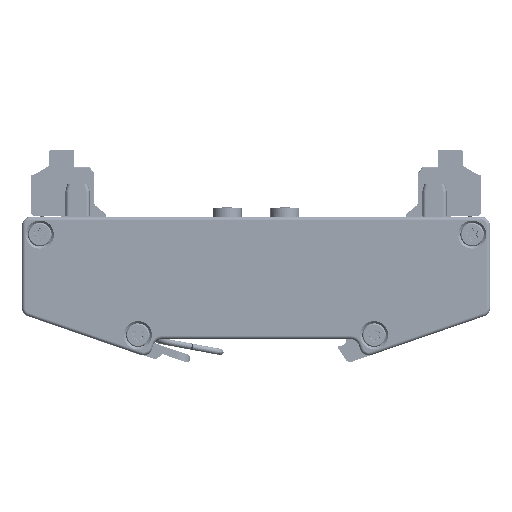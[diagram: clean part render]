
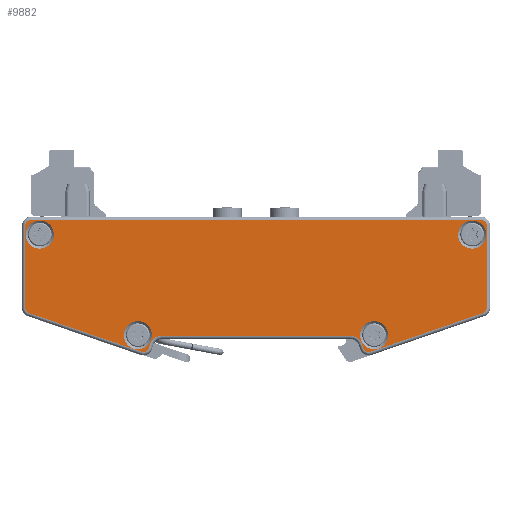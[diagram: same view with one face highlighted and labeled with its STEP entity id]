
A CAD part, left-side view. The second image highlights one B-rep face of the part: STEP entity #9882.
In plain terms, the highlighted planar face has unit normal (-1, 0, 0).
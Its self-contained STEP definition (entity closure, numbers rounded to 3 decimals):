
#9882 = ADVANCED_FACE('',(#9883,#9894,#10032,#10043,#10054),#10065,.F.);
#9883 = FACE_BOUND('',#9884,.F.);
#9884 = EDGE_LOOP('',(#9885));
#9885 = ORIENTED_EDGE('',*,*,#9886,.T.);
#9886 = EDGE_CURVE('',#9887,#9887,#9889,.T.);
#9887 = VERTEX_POINT('',#9888);
#9888 = CARTESIAN_POINT('',(-2.,45.35,-4.));
#9889 = CIRCLE('',#9890,3.15);
#9890 = AXIS2_PLACEMENT_3D('',#9891,#9892,#9893);
#9891 = CARTESIAN_POINT('',(-2.,48.5,-4.));
#9892 = DIRECTION('',(-1.,0.,0.));
#9893 = DIRECTION('',(0.,-1.,0.));
#9894 = FACE_BOUND('',#9895,.F.);
#9895 = EDGE_LOOP('',(#9896,#9906,#9915,#9923,#9932,#9940,#9949,#9957,
    #9966,#9974,#9983,#9991,#10000,#10008,#10017,#10025));
#9896 = ORIENTED_EDGE('',*,*,#9897,.T.);
#9897 = EDGE_CURVE('',#9898,#9900,#9902,.T.);
#9898 = VERTEX_POINT('',#9899);
#9899 = CARTESIAN_POINT('',(-2.,50.5,-0.75));
#9900 = VERTEX_POINT('',#9901);
#9901 = CARTESIAN_POINT('',(-2.,-50.5,-0.75));
#9902 = LINE('',#9903,#9904);
#9903 = CARTESIAN_POINT('',(-2.,50.5,-0.75));
#9904 = VECTOR('',#9905,1.);
#9905 = DIRECTION('',(0.,-1.,0.));
#9906 = ORIENTED_EDGE('',*,*,#9907,.T.);
#9907 = EDGE_CURVE('',#9900,#9908,#9910,.T.);
#9908 = VERTEX_POINT('',#9909);
#9909 = CARTESIAN_POINT('',(-2.,-51.75,-2.));
#9910 = CIRCLE('',#9911,1.25);
#9911 = AXIS2_PLACEMENT_3D('',#9912,#9913,#9914);
#9912 = CARTESIAN_POINT('',(-2.,-50.5,-2.));
#9913 = DIRECTION('',(1.,0.,0.));
#9914 = DIRECTION('',(0.,0.,1.));
#9915 = ORIENTED_EDGE('',*,*,#9916,.T.);
#9916 = EDGE_CURVE('',#9908,#9917,#9919,.T.);
#9917 = VERTEX_POINT('',#9918);
#9918 = CARTESIAN_POINT('',(-2.,-51.75,-20.42));
#9919 = LINE('',#9920,#9921);
#9920 = CARTESIAN_POINT('',(-2.,-51.75,-2.));
#9921 = VECTOR('',#9922,1.);
#9922 = DIRECTION('',(0.,0.,-1.));
#9923 = ORIENTED_EDGE('',*,*,#9924,.T.);
#9924 = EDGE_CURVE('',#9917,#9925,#9927,.T.);
#9925 = VERTEX_POINT('',#9926);
#9926 = CARTESIAN_POINT('',(-2.,-50.907,-21.602));
#9927 = CIRCLE('',#9928,1.25);
#9928 = AXIS2_PLACEMENT_3D('',#9929,#9930,#9931);
#9929 = CARTESIAN_POINT('',(-2.,-50.5,-20.42));
#9930 = DIRECTION('',(1.,0.,0.));
#9931 = DIRECTION('',(0.,-1.,0.));
#9932 = ORIENTED_EDGE('',*,*,#9933,.T.);
#9933 = EDGE_CURVE('',#9925,#9934,#9936,.T.);
#9934 = VERTEX_POINT('',#9935);
#9935 = CARTESIAN_POINT('',(-2.,-25.688,-30.285));
#9936 = LINE('',#9937,#9938);
#9937 = CARTESIAN_POINT('',(-2.,-50.907,-21.602));
#9938 = VECTOR('',#9939,1.);
#9939 = DIRECTION('',(0.,0.946,-0.326));
#9940 = ORIENTED_EDGE('',*,*,#9941,.T.);
#9941 = EDGE_CURVE('',#9934,#9942,#9944,.T.);
#9942 = VERTEX_POINT('',#9943);
#9943 = CARTESIAN_POINT('',(-2.,-24.099,-29.511));
#9944 = CIRCLE('',#9945,1.25);
#9945 = AXIS2_PLACEMENT_3D('',#9946,#9947,#9948);
#9946 = CARTESIAN_POINT('',(-2.,-25.281,-29.104));
#9947 = DIRECTION('',(1.,0.,0.));
#9948 = DIRECTION('',(0.,-0.326,-0.946
    ));
#9949 = ORIENTED_EDGE('',*,*,#9950,.T.);
#9950 = EDGE_CURVE('',#9942,#9951,#9953,.T.);
#9951 = VERTEX_POINT('',#9952);
#9952 = CARTESIAN_POINT('',(-2.,-23.77,-28.555));
#9953 = LINE('',#9954,#9955);
#9954 = CARTESIAN_POINT('',(-2.,-24.099,-29.511));
#9955 = VECTOR('',#9956,1.);
#9956 = DIRECTION('',(0.,0.326,0.946));
#9957 = ORIENTED_EDGE('',*,*,#9958,.T.);
#9958 = EDGE_CURVE('',#9951,#9959,#9961,.T.);
#9959 = VERTEX_POINT('',#9960);
#9960 = CARTESIAN_POINT('',(-2.,-21.17,-26.7));
#9961 = CIRCLE('',#9962,2.75);
#9962 = AXIS2_PLACEMENT_3D('',#9963,#9964,#9965);
#9963 = CARTESIAN_POINT('',(-2.,-21.17,-29.45));
#9964 = DIRECTION('',(-1.,0.,0.));
#9965 = DIRECTION('',(0.,-0.946,0.326)
  );
#9966 = ORIENTED_EDGE('',*,*,#9967,.T.);
#9967 = EDGE_CURVE('',#9959,#9968,#9970,.T.);
#9968 = VERTEX_POINT('',#9969);
#9969 = CARTESIAN_POINT('',(-2.,21.17,-26.7));
#9970 = LINE('',#9971,#9972);
#9971 = CARTESIAN_POINT('',(-2.,-21.17,-26.7));
#9972 = VECTOR('',#9973,1.);
#9973 = DIRECTION('',(0.,1.,0.));
#9974 = ORIENTED_EDGE('',*,*,#9975,.T.);
#9975 = EDGE_CURVE('',#9968,#9976,#9978,.T.);
#9976 = VERTEX_POINT('',#9977);
#9977 = CARTESIAN_POINT('',(-2.,23.77,-28.555));
#9978 = CIRCLE('',#9979,2.75);
#9979 = AXIS2_PLACEMENT_3D('',#9980,#9981,#9982);
#9980 = CARTESIAN_POINT('',(-2.,21.17,-29.45));
#9981 = DIRECTION('',(-1.,0.,0.));
#9982 = DIRECTION('',(0.,0.,1.));
#9983 = ORIENTED_EDGE('',*,*,#9984,.T.);
#9984 = EDGE_CURVE('',#9976,#9985,#9987,.T.);
#9985 = VERTEX_POINT('',#9986);
#9986 = CARTESIAN_POINT('',(-2.,24.099,-29.511));
#9987 = LINE('',#9988,#9989);
#9988 = CARTESIAN_POINT('',(-2.,23.77,-28.555));
#9989 = VECTOR('',#9990,1.);
#9990 = DIRECTION('',(0.,0.326,-0.946));
#9991 = ORIENTED_EDGE('',*,*,#9992,.T.);
#9992 = EDGE_CURVE('',#9985,#9993,#9995,.T.);
#9993 = VERTEX_POINT('',#9994);
#9994 = CARTESIAN_POINT('',(-2.,25.688,-30.285));
#9995 = CIRCLE('',#9996,1.25);
#9996 = AXIS2_PLACEMENT_3D('',#9997,#9998,#9999);
#9997 = CARTESIAN_POINT('',(-2.,25.281,-29.104));
#9998 = DIRECTION('',(1.,0.,0.));
#9999 = DIRECTION('',(0.,-0.946,-0.326
    ));
#10000 = ORIENTED_EDGE('',*,*,#10001,.T.);
#10001 = EDGE_CURVE('',#9993,#10002,#10004,.T.);
#10002 = VERTEX_POINT('',#10003);
#10003 = CARTESIAN_POINT('',(-2.,50.907,-21.602));
#10004 = LINE('',#10005,#10006);
#10005 = CARTESIAN_POINT('',(-2.,25.688,-30.285));
#10006 = VECTOR('',#10007,1.);
#10007 = DIRECTION('',(0.,0.946,0.326));
#10008 = ORIENTED_EDGE('',*,*,#10009,.T.);
#10009 = EDGE_CURVE('',#10002,#10010,#10012,.T.);
#10010 = VERTEX_POINT('',#10011);
#10011 = CARTESIAN_POINT('',(-2.,51.75,-20.42));
#10012 = CIRCLE('',#10013,1.25);
#10013 = AXIS2_PLACEMENT_3D('',#10014,#10015,#10016);
#10014 = CARTESIAN_POINT('',(-2.,50.5,-20.42));
#10015 = DIRECTION('',(1.,0.,0.));
#10016 = DIRECTION('',(0.,0.326,
    -0.946));
#10017 = ORIENTED_EDGE('',*,*,#10018,.T.);
#10018 = EDGE_CURVE('',#10010,#10019,#10021,.T.);
#10019 = VERTEX_POINT('',#10020);
#10020 = CARTESIAN_POINT('',(-2.,51.75,-2.));
#10021 = LINE('',#10022,#10023);
#10022 = CARTESIAN_POINT('',(-2.,51.75,-20.42));
#10023 = VECTOR('',#10024,1.);
#10024 = DIRECTION('',(0.,0.,1.));
#10025 = ORIENTED_EDGE('',*,*,#10026,.T.);
#10026 = EDGE_CURVE('',#10019,#9898,#10027,.T.);
#10027 = CIRCLE('',#10028,1.25);
#10028 = AXIS2_PLACEMENT_3D('',#10029,#10030,#10031);
#10029 = CARTESIAN_POINT('',(-2.,50.5,-2.));
#10030 = DIRECTION('',(1.,0.,0.));
#10031 = DIRECTION('',(0.,1.,0.));
#10032 = FACE_BOUND('',#10033,.F.);
#10033 = EDGE_LOOP('',(#10034));
#10034 = ORIENTED_EDGE('',*,*,#10035,.T.);
#10035 = EDGE_CURVE('',#10036,#10036,#10038,.T.);
#10036 = VERTEX_POINT('',#10037);
#10037 = CARTESIAN_POINT('',(-2.,23.35,-26.572));
#10038 = CIRCLE('',#10039,3.15);
#10039 = AXIS2_PLACEMENT_3D('',#10040,#10041,#10042);
#10040 = CARTESIAN_POINT('',(-2.,26.5,-26.572));
#10041 = DIRECTION('',(-1.,0.,0.));
#10042 = DIRECTION('',(0.,-1.,-0.));
#10043 = FACE_BOUND('',#10044,.F.);
#10044 = EDGE_LOOP('',(#10045));
#10045 = ORIENTED_EDGE('',*,*,#10046,.T.);
#10046 = EDGE_CURVE('',#10047,#10047,#10049,.T.);
#10047 = VERTEX_POINT('',#10048);
#10048 = CARTESIAN_POINT('',(-2.,-29.65,-26.572));
#10049 = CIRCLE('',#10050,3.15);
#10050 = AXIS2_PLACEMENT_3D('',#10051,#10052,#10053);
#10051 = CARTESIAN_POINT('',(-2.,-26.5,-26.572));
#10052 = DIRECTION('',(-1.,0.,0.));
#10053 = DIRECTION('',(0.,-1.,0.));
#10054 = FACE_BOUND('',#10055,.F.);
#10055 = EDGE_LOOP('',(#10056));
#10056 = ORIENTED_EDGE('',*,*,#10057,.T.);
#10057 = EDGE_CURVE('',#10058,#10058,#10060,.T.);
#10058 = VERTEX_POINT('',#10059);
#10059 = CARTESIAN_POINT('',(-2.,-51.65,-4.));
#10060 = CIRCLE('',#10061,3.15);
#10061 = AXIS2_PLACEMENT_3D('',#10062,#10063,#10064);
#10062 = CARTESIAN_POINT('',(-2.,-48.5,-4.));
#10063 = DIRECTION('',(-1.,0.,0.));
#10064 = DIRECTION('',(0.,-1.,0.));
#10065 = PLANE('',#10066);
#10066 = AXIS2_PLACEMENT_3D('',#10067,#10068,#10069);
#10067 = CARTESIAN_POINT('',(-2.,0.,-13.796));
#10068 = DIRECTION('',(1.,0.,0.));
#10069 = DIRECTION('',(0.,0.,1.));
